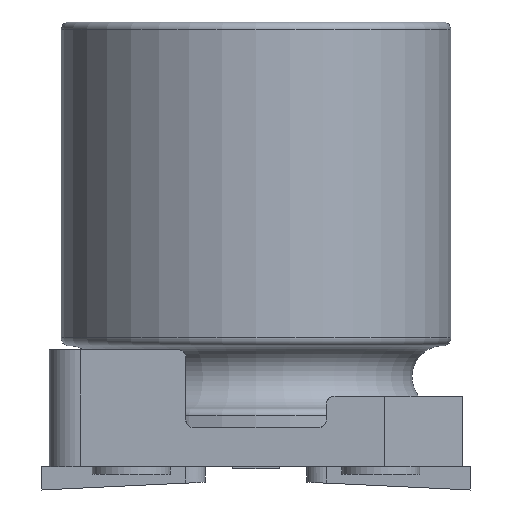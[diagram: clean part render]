
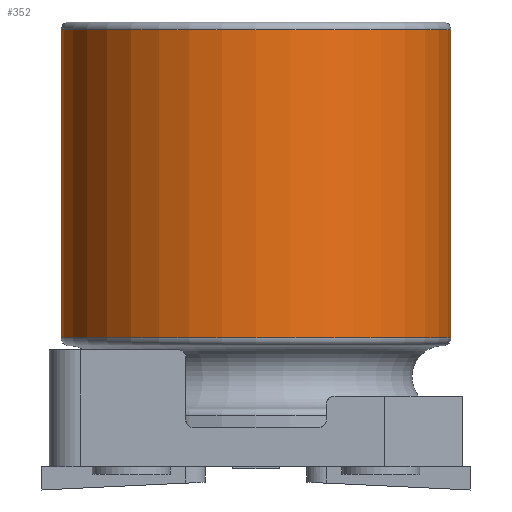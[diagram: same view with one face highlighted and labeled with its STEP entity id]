
A CAD part, front view. The second image highlights one B-rep face of the part: STEP entity #352.
In plain terms, the highlighted cylindrical face has radius 2.5 mm (diameter 5 mm), a full revolution.
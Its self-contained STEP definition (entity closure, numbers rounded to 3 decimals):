
#204=CYLINDRICAL_SURFACE('',#1591,2.5);
#352=ADVANCED_FACE('',(#436,#437),#204,.T.);
#436=FACE_BOUND('',#512,.T.);
#437=FACE_BOUND('',#513,.T.);
#512=EDGE_LOOP('',(#873));
#513=EDGE_LOOP('',(#874));
#580=CIRCLE('',#1589,2.5);
#581=CIRCLE('',#1590,2.5);
#873=ORIENTED_EDGE('',*,*,#1226,.T.);
#874=ORIENTED_EDGE('',*,*,#1227,.T.);
#1055=VERTEX_POINT('',#2453);
#1056=VERTEX_POINT('',#2455);
#1226=EDGE_CURVE('',#1055,#1055,#580,.T.);
#1227=EDGE_CURVE('',#1056,#1056,#581,.T.);
#1589=AXIS2_PLACEMENT_3D('',#2452,#1904,#1905);
#1590=AXIS2_PLACEMENT_3D('',#2454,#1906,#1907);
#1591=AXIS2_PLACEMENT_3D('',#2456,#1908,#1909);
#1904=DIRECTION('',(0.,0.,1.));
#1905=DIRECTION('',(1.,0.,0.));
#1906=DIRECTION('',(0.,0.,-1.));
#1907=DIRECTION('',(-1.,0.,0.));
#1908=DIRECTION('',(0.,0.,-1.));
#1909=DIRECTION('',(-1.,0.,0.));
#2452=CARTESIAN_POINT('',(0.,0.,1.65));
#2453=CARTESIAN_POINT('',(2.5,0.,1.65));
#2454=CARTESIAN_POINT('',(0.,0.,5.6));
#2455=CARTESIAN_POINT('',(-2.5,0.,5.6));
#2456=CARTESIAN_POINT('',(0.,0.,0.));
